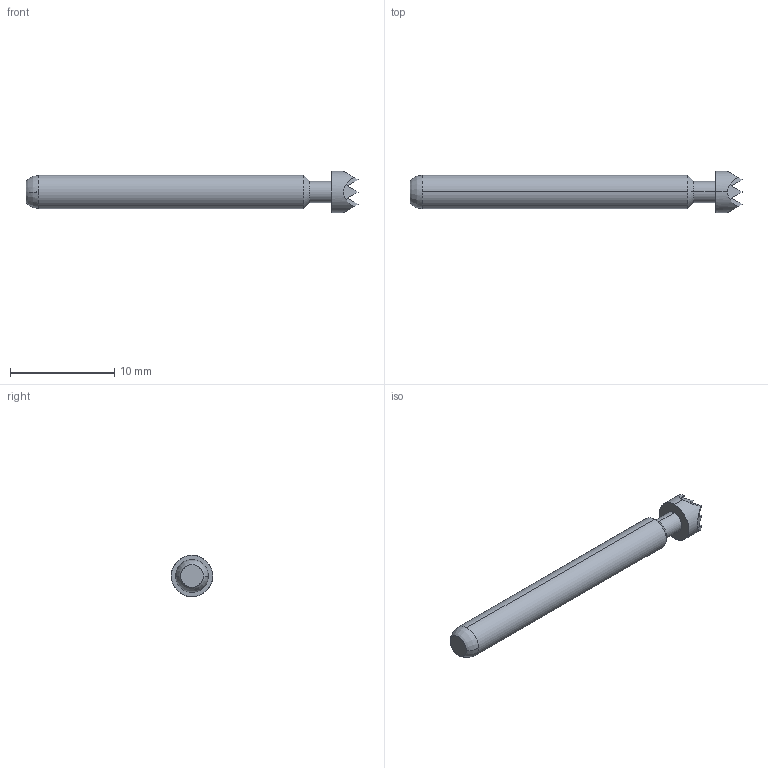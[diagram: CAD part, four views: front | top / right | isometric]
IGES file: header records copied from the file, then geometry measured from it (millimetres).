
Start section: SolidWorks IGES file using analytic representation for surfaces
Global section: file name: Z:\probe solid model mockups\Solidworks models\IGES Files\EPA-5 IGES files\EPA-5H RECD.IGS; native system: SolidWorks 2006 by SolidWorks Corporation; preprocessor: SolidWorks 2006 by SolidWorks Corporation; author: tsakatani; date: 080103.110755; units: inch
Bounding box: 31.83 x 3.96 x 3.96 mm (x, y, z)
Surface area: 341.3 mm2 (no closed solid volume)
Topology: 0 solids, 0 shells, 40 faces, 298 edges, 298 vertices
Faces by surface type: bspline 30, revolution 10
